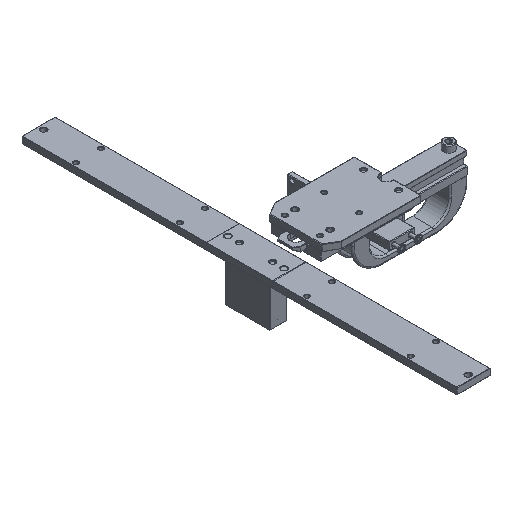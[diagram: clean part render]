
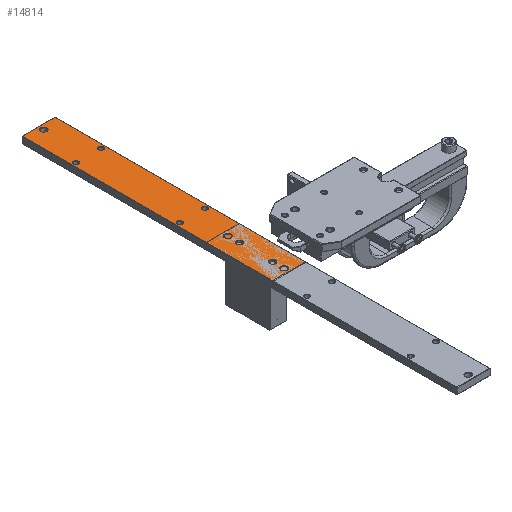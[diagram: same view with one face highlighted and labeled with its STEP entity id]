
A CAD part, isometric view. The second image highlights one B-rep face of the part: STEP entity #14814.
In plain terms, the highlighted planar face has unit normal (0, 0, 1) as drawn and (0, 0, -1) by its records, which use the part's own axes.
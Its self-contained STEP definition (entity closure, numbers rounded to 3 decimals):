
#12453=DIRECTION('',(0.,-1.,0.));
#12454=VECTOR('',#12453,299.);
#12455=CARTESIAN_POINT('',(19.5,149.5,-4.));
#12456=LINE('',#12455,#12454);
#12457=DIRECTION('',(1.,0.,0.));
#12458=VECTOR('',#12457,39.);
#12459=CARTESIAN_POINT('',(-19.5,149.5,-4.));
#12460=LINE('',#12459,#12458);
#12461=DIRECTION('',(0.,1.,0.));
#12462=VECTOR('',#12461,299.);
#12463=CARTESIAN_POINT('',(-19.5,-149.5,-4.));
#12464=LINE('',#12463,#12462);
#12465=DIRECTION('',(-1.,0.,0.));
#12466=VECTOR('',#12465,39.);
#12467=CARTESIAN_POINT('',(19.5,-149.5,-4.));
#12468=LINE('',#12467,#12466);
#12469=CARTESIAN_POINT('',(0.,-143.5,-4.));
#12470=DIRECTION('',(0.,0.,1.));
#12471=DIRECTION('',(1.,0.,0.));
#12472=AXIS2_PLACEMENT_3D('',#12469,#12470,#12471);
#12474=CARTESIAN_POINT('',(0.,-143.5,-4.));
#12475=DIRECTION('',(0.,0.,1.));
#12476=DIRECTION('',(-1.,0.,0.));
#12477=AXIS2_PLACEMENT_3D('',#12474,#12475,#12476);
#12479=CARTESIAN_POINT('',(-15.,-90.,-4.));
#12480=DIRECTION('',(0.,0.,1.));
#12481=DIRECTION('',(1.,0.,0.));
#12482=AXIS2_PLACEMENT_3D('',#12479,#12480,#12481);
#12484=CARTESIAN_POINT('',(-15.,-90.,-4.));
#12485=DIRECTION('',(0.,0.,1.));
#12486=DIRECTION('',(-1.,0.,0.));
#12487=AXIS2_PLACEMENT_3D('',#12484,#12485,#12486);
#12489=CARTESIAN_POINT('',(-15.,34.,-4.));
#12490=DIRECTION('',(0.,0.,1.));
#12491=DIRECTION('',(1.,0.,0.));
#12492=AXIS2_PLACEMENT_3D('',#12489,#12490,#12491);
#12494=CARTESIAN_POINT('',(-15.,34.,-4.));
#12495=DIRECTION('',(0.,0.,1.));
#12496=DIRECTION('',(-1.,0.,0.));
#12497=AXIS2_PLACEMENT_3D('',#12494,#12495,#12496);
#12499=CARTESIAN_POINT('',(0.,90.,-4.));
#12500=DIRECTION('',(0.,0.,1.));
#12501=DIRECTION('',(1.,0.,0.));
#12502=AXIS2_PLACEMENT_3D('',#12499,#12500,#12501);
#12504=CARTESIAN_POINT('',(0.,90.,-4.));
#12505=DIRECTION('',(0.,0.,1.));
#12506=DIRECTION('',(-1.,0.,0.));
#12507=AXIS2_PLACEMENT_3D('',#12504,#12505,#12506);
#12509=CARTESIAN_POINT('',(0.,130.,-4.));
#12510=DIRECTION('',(0.,0.,1.));
#12511=DIRECTION('',(1.,0.,0.));
#12512=AXIS2_PLACEMENT_3D('',#12509,#12510,#12511);
#12514=CARTESIAN_POINT('',(0.,130.,-4.));
#12515=DIRECTION('',(0.,0.,1.));
#12516=DIRECTION('',(-1.,0.,0.));
#12517=AXIS2_PLACEMENT_3D('',#12514,#12515,#12516);
#12519=CARTESIAN_POINT('',(0.,143.5,-4.));
#12520=DIRECTION('',(0.,0.,1.));
#12521=DIRECTION('',(1.,0.,0.));
#12522=AXIS2_PLACEMENT_3D('',#12519,#12520,#12521);
#12524=CARTESIAN_POINT('',(0.,143.5,-4.));
#12525=DIRECTION('',(0.,0.,1.));
#12526=DIRECTION('',(-1.,0.,0.));
#12527=AXIS2_PLACEMENT_3D('',#12524,#12525,#12526);
#12529=CARTESIAN_POINT('',(15.,34.,-4.));
#12530=DIRECTION('',(0.,0.,1.));
#12531=DIRECTION('',(1.,0.,0.));
#12532=AXIS2_PLACEMENT_3D('',#12529,#12530,#12531);
#12534=CARTESIAN_POINT('',(15.,34.,-4.));
#12535=DIRECTION('',(0.,0.,1.));
#12536=DIRECTION('',(-1.,0.,0.));
#12537=AXIS2_PLACEMENT_3D('',#12534,#12535,#12536);
#12539=CARTESIAN_POINT('',(15.,-90.,-4.));
#12540=DIRECTION('',(0.,0.,1.));
#12541=DIRECTION('',(1.,0.,0.));
#12542=AXIS2_PLACEMENT_3D('',#12539,#12540,#12541);
#12544=CARTESIAN_POINT('',(15.,-90.,-4.));
#12545=DIRECTION('',(0.,0.,1.));
#12546=DIRECTION('',(-1.,0.,0.));
#12547=AXIS2_PLACEMENT_3D('',#12544,#12545,#12546);
#14267=CARTESIAN_POINT('',(19.5,149.5,-4.));
#14268=CARTESIAN_POINT('',(19.5,-149.5,-4.));
#14269=VERTEX_POINT('',#14267);
#14270=VERTEX_POINT('',#14268);
#14275=CARTESIAN_POINT('',(-19.5,-149.5,-4.));
#14276=CARTESIAN_POINT('',(-19.5,149.5,-4.));
#14277=VERTEX_POINT('',#14275);
#14278=VERTEX_POINT('',#14276);
#14327=CARTESIAN_POINT('',(3.7,-143.5,-4.));
#14328=CARTESIAN_POINT('',(-3.7,-143.5,-4.));
#14329=VERTEX_POINT('',#14327);
#14330=VERTEX_POINT('',#14328);
#14335=CARTESIAN_POINT('',(-12.,-90.,-4.));
#14336=CARTESIAN_POINT('',(-18.,-90.,-4.));
#14337=VERTEX_POINT('',#14335);
#14338=VERTEX_POINT('',#14336);
#14343=CARTESIAN_POINT('',(-12.,34.,-4.));
#14344=CARTESIAN_POINT('',(-18.,34.,-4.));
#14345=VERTEX_POINT('',#14343);
#14346=VERTEX_POINT('',#14344);
#14351=CARTESIAN_POINT('',(3.5,90.,-4.));
#14352=CARTESIAN_POINT('',(-3.5,90.,-4.));
#14353=VERTEX_POINT('',#14351);
#14354=VERTEX_POINT('',#14352);
#14359=CARTESIAN_POINT('',(3.5,130.,-4.));
#14360=CARTESIAN_POINT('',(-3.5,130.,-4.));
#14361=VERTEX_POINT('',#14359);
#14362=VERTEX_POINT('',#14360);
#14367=CARTESIAN_POINT('',(3.7,143.5,-4.));
#14368=CARTESIAN_POINT('',(-3.7,143.5,-4.));
#14369=VERTEX_POINT('',#14367);
#14370=VERTEX_POINT('',#14368);
#14407=CARTESIAN_POINT('',(18.,34.,-4.));
#14408=CARTESIAN_POINT('',(12.,34.,-4.));
#14409=VERTEX_POINT('',#14407);
#14410=VERTEX_POINT('',#14408);
#14415=CARTESIAN_POINT('',(18.,-90.,-4.));
#14416=CARTESIAN_POINT('',(12.,-90.,-4.));
#14417=VERTEX_POINT('',#14415);
#14418=VERTEX_POINT('',#14416);
#14751=CARTESIAN_POINT('',(0.,0.,-4.));
#14752=DIRECTION('',(0.,0.,1.));
#14753=DIRECTION('',(1.,0.,0.));
#14754=AXIS2_PLACEMENT_3D('',#14751,#14752,#14753);
#14755=PLANE('',#14754);
#14757=ORIENTED_EDGE('',*,*,#14756,.F.);
#14759=ORIENTED_EDGE('',*,*,#14758,.F.);
#14761=ORIENTED_EDGE('',*,*,#14760,.F.);
#14763=ORIENTED_EDGE('',*,*,#14762,.F.);
#14764=EDGE_LOOP('',(#14757,#14759,#14761,#14763));
#14765=FACE_OUTER_BOUND('',#14764,.F.);
#14767=ORIENTED_EDGE('',*,*,#14766,.F.);
#14769=ORIENTED_EDGE('',*,*,#14768,.F.);
#14770=EDGE_LOOP('',(#14767,#14769));
#14771=FACE_BOUND('',#14770,.F.);
#14773=ORIENTED_EDGE('',*,*,#14772,.F.);
#14775=ORIENTED_EDGE('',*,*,#14774,.F.);
#14776=EDGE_LOOP('',(#14773,#14775));
#14777=FACE_BOUND('',#14776,.F.);
#14779=ORIENTED_EDGE('',*,*,#14778,.F.);
#14781=ORIENTED_EDGE('',*,*,#14780,.F.);
#14782=EDGE_LOOP('',(#14779,#14781));
#14783=FACE_BOUND('',#14782,.F.);
#14785=ORIENTED_EDGE('',*,*,#14784,.F.);
#14787=ORIENTED_EDGE('',*,*,#14786,.F.);
#14788=EDGE_LOOP('',(#14785,#14787));
#14789=FACE_BOUND('',#14788,.F.);
#14791=ORIENTED_EDGE('',*,*,#14790,.F.);
#14793=ORIENTED_EDGE('',*,*,#14792,.F.);
#14794=EDGE_LOOP('',(#14791,#14793));
#14795=FACE_BOUND('',#14794,.F.);
#14797=ORIENTED_EDGE('',*,*,#14796,.F.);
#14799=ORIENTED_EDGE('',*,*,#14798,.F.);
#14800=EDGE_LOOP('',(#14797,#14799));
#14801=FACE_BOUND('',#14800,.F.);
#14803=ORIENTED_EDGE('',*,*,#14802,.F.);
#14805=ORIENTED_EDGE('',*,*,#14804,.F.);
#14806=EDGE_LOOP('',(#14803,#14805));
#14807=FACE_BOUND('',#14806,.F.);
#14809=ORIENTED_EDGE('',*,*,#14808,.F.);
#14811=ORIENTED_EDGE('',*,*,#14810,.F.);
#14812=EDGE_LOOP('',(#14809,#14811));
#14813=FACE_BOUND('',#14812,.F.);
#14814=ADVANCED_FACE('',(#14765,#14771,#14777,#14783,#14789,#14795,#14801,
#14807,#14813),#14755,.F.);
#12473=CIRCLE('',#12472,3.7);
#12478=CIRCLE('',#12477,3.7);
#12483=CIRCLE('',#12482,3.);
#12488=CIRCLE('',#12487,3.);
#12493=CIRCLE('',#12492,3.);
#12498=CIRCLE('',#12497,3.);
#12503=CIRCLE('',#12502,3.5);
#12508=CIRCLE('',#12507,3.5);
#12513=CIRCLE('',#12512,3.5);
#12518=CIRCLE('',#12517,3.5);
#12523=CIRCLE('',#12522,3.7);
#12528=CIRCLE('',#12527,3.7);
#12533=CIRCLE('',#12532,3.);
#12538=CIRCLE('',#12537,3.);
#12543=CIRCLE('',#12542,3.);
#12548=CIRCLE('',#12547,3.);
#14756=EDGE_CURVE('',#14269,#14270,#12456,.T.);
#14758=EDGE_CURVE('',#14278,#14269,#12460,.T.);
#14760=EDGE_CURVE('',#14277,#14278,#12464,.T.);
#14762=EDGE_CURVE('',#14270,#14277,#12468,.T.);
#14766=EDGE_CURVE('',#14329,#14330,#12473,.T.);
#14768=EDGE_CURVE('',#14330,#14329,#12478,.T.);
#14772=EDGE_CURVE('',#14337,#14338,#12483,.T.);
#14774=EDGE_CURVE('',#14338,#14337,#12488,.T.);
#14778=EDGE_CURVE('',#14345,#14346,#12493,.T.);
#14780=EDGE_CURVE('',#14346,#14345,#12498,.T.);
#14784=EDGE_CURVE('',#14353,#14354,#12503,.T.);
#14786=EDGE_CURVE('',#14354,#14353,#12508,.T.);
#14790=EDGE_CURVE('',#14361,#14362,#12513,.T.);
#14792=EDGE_CURVE('',#14362,#14361,#12518,.T.);
#14796=EDGE_CURVE('',#14369,#14370,#12523,.T.);
#14798=EDGE_CURVE('',#14370,#14369,#12528,.T.);
#14802=EDGE_CURVE('',#14409,#14410,#12533,.T.);
#14804=EDGE_CURVE('',#14410,#14409,#12538,.T.);
#14808=EDGE_CURVE('',#14417,#14418,#12543,.T.);
#14810=EDGE_CURVE('',#14418,#14417,#12548,.T.);
